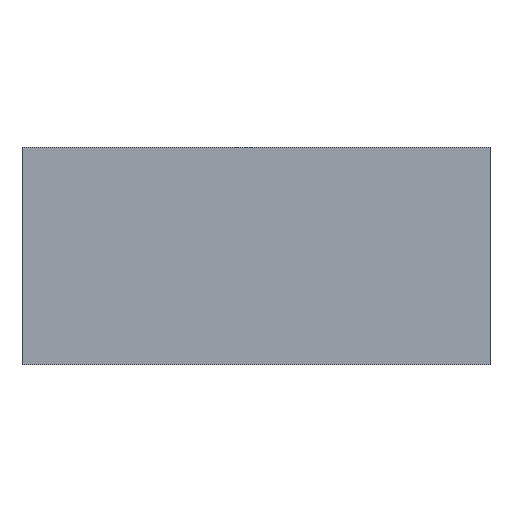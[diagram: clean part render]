
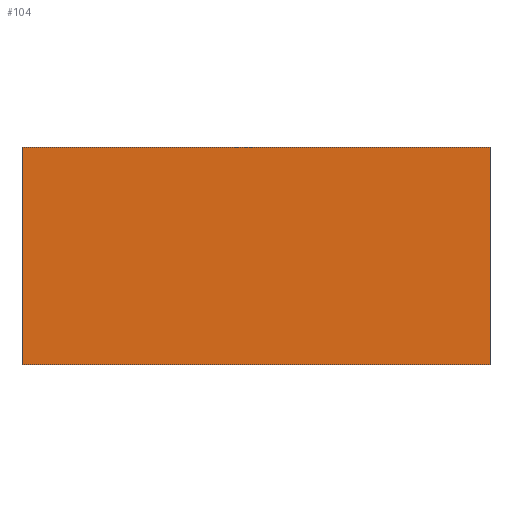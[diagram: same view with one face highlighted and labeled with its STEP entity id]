
A CAD part, top view. The second image highlights one B-rep face of the part: STEP entity #104.
In plain terms, the highlighted planar face has unit normal (0, 0, 1).
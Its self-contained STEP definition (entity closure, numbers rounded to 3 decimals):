
#8 = VECTOR ( 'NONE', #42, 1000. ) ;
#11 = DIRECTION ( 'NONE',  ( 1., 0., 0. ) ) ;
#12 = VERTEX_POINT ( 'NONE', #89 ) ;
#19 = LINE ( 'NONE', #146, #8 ) ;
#25 = EDGE_CURVE ( 'NONE', #76, #118, #147, .T. ) ;
#27 = DIRECTION ( 'NONE',  ( 0., 0., 1. ) ) ;
#29 = CARTESIAN_POINT ( 'NONE',  ( -35.45, 16.45, 0.5 ) ) ;
#30 = DIRECTION ( 'NONE',  ( 0., 1., 0. ) ) ;
#31 = DIRECTION ( 'NONE',  ( -1., 0., 0. ) ) ;
#33 = CARTESIAN_POINT ( 'NONE',  ( 35.45, 16.45, 0.5 ) ) ;
#37 = EDGE_CURVE ( 'NONE', #160, #76, #109, .T. ) ;
#42 = DIRECTION ( 'NONE',  ( 1., 0., 0. ) ) ;
#48 = AXIS2_PLACEMENT_3D ( 'NONE', #88, #27, #11 ) ;
#61 = EDGE_CURVE ( 'NONE', #118, #12, #87, .T. ) ;
#62 = VECTOR ( 'NONE', #130, 1000. ) ;
#66 = CARTESIAN_POINT ( 'NONE',  ( -35.45, 16.45, 0.5 ) ) ;
#76 = VERTEX_POINT ( 'NONE', #33 ) ;
#80 = EDGE_CURVE ( 'NONE', #12, #160, #19, .T. ) ;
#86 = VECTOR ( 'NONE', #30, 1000. ) ;
#87 = LINE ( 'NONE', #29, #62 ) ;
#88 = CARTESIAN_POINT ( 'NONE',  ( 0., 0., 0.5 ) ) ;
#89 = CARTESIAN_POINT ( 'NONE',  ( -35.45, -16.45, 0.5 ) ) ;
#99 = VECTOR ( 'NONE', #31, 1000. ) ;
#103 = EDGE_LOOP ( 'NONE', ( #168, #133, #136, #134 ) ) ;
#104 = ADVANCED_FACE ( 'NONE', ( #180 ), #122, .T. ) ;
#109 = LINE ( 'NONE', #125, #86 ) ;
#118 = VERTEX_POINT ( 'NONE', #171 ) ;
#122 = PLANE ( 'NONE',  #48 ) ;
#125 = CARTESIAN_POINT ( 'NONE',  ( 35.45, 16.45, 0.5 ) ) ;
#130 = DIRECTION ( 'NONE',  ( 0., -1., 0. ) ) ;
#133 = ORIENTED_EDGE ( 'NONE', *, *, #80, .T. ) ;
#134 = ORIENTED_EDGE ( 'NONE', *, *, #25, .T. ) ;
#136 = ORIENTED_EDGE ( 'NONE', *, *, #37, .T. ) ;
#146 = CARTESIAN_POINT ( 'NONE',  ( -35.45, -16.45, 0.5 ) ) ;
#147 = LINE ( 'NONE', #66, #99 ) ;
#156 = CARTESIAN_POINT ( 'NONE',  ( 35.45, -16.45, 0.5 ) ) ;
#160 = VERTEX_POINT ( 'NONE', #156 ) ;
#168 = ORIENTED_EDGE ( 'NONE', *, *, #61, .T. ) ;
#171 = CARTESIAN_POINT ( 'NONE',  ( -35.45, 16.45, 0.5 ) ) ;
#180 = FACE_OUTER_BOUND ( 'NONE', #103, .T. ) ;
